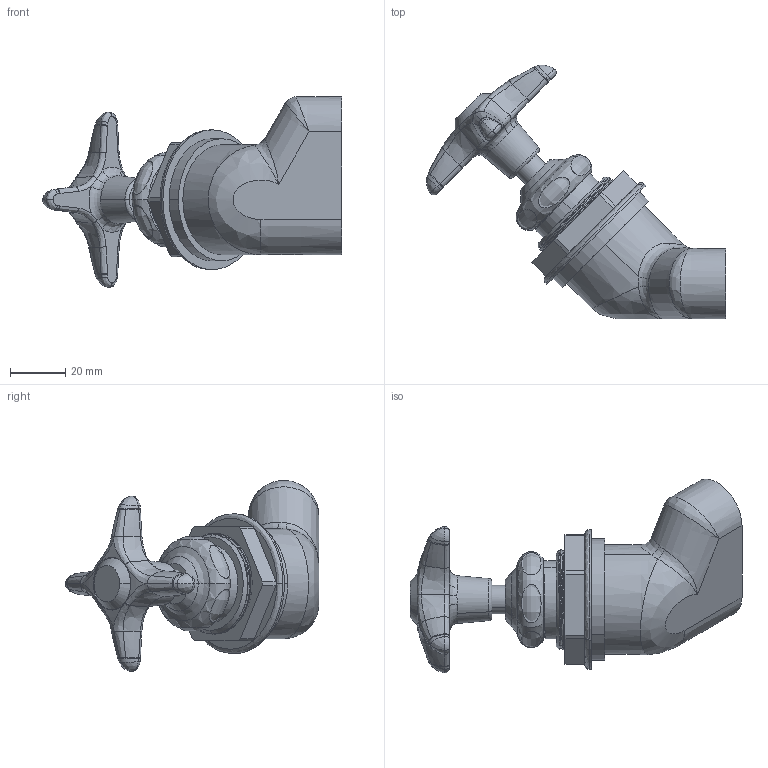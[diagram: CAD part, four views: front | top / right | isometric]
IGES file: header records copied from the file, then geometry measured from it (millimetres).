
Start section:  PTC IGES file: LRV-S1-A1A.igs
Global section: file name: LRV-S1-A1A.igs; native system: Creo Parametric by PTC Inc.; preprocessor: 2014500; author: usch_engrender; organization: Unknown; date: 20160209.103211; units: inch
Bounding box: 108.13 x 91.69 x 69.01 mm (x, y, z)
Surface area: 28282.9 mm2 (no closed solid volume)
Topology: 0 solids, 16 shells, 224 faces, 549 edges, 337 vertices
Faces by surface type: bspline 159, revolution 65
